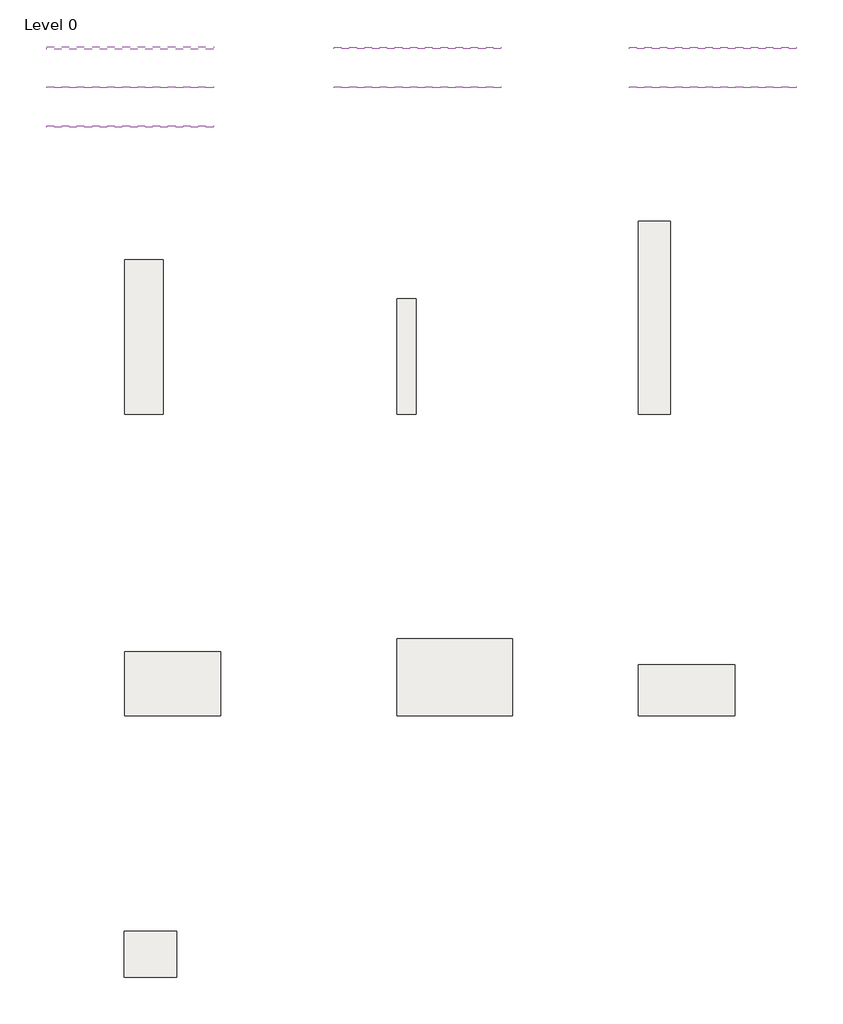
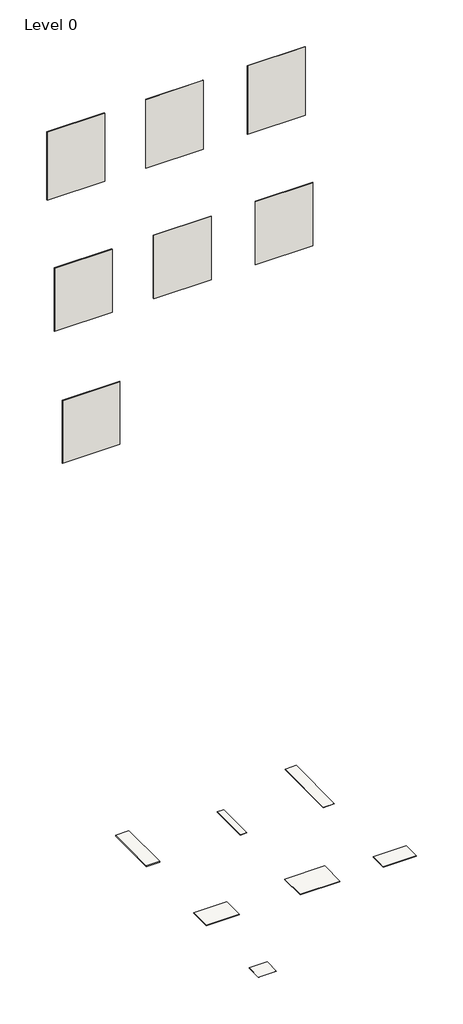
# One storey: 7 slabs, 7 walls.
"""IFC4 building model written with IfcOpenShell, lengths in millimetres."""

import ifcopenshell
import ifcopenshell.guid

model = None  # the IFC model being written
_history = None  # IfcOwnerHistory: only IFC2X3 demands one
_inside = {}  # id of a spatial element -> (the spatial element, [elements in it])
_under = {}  # id of a project, library or spatial element -> (it, [spatial elements below it])
_declared = {}  # id of a project -> (the project, [libraries it declares])
_typed = {}  # id of a type object -> (the type object, [elements of that type])
_made_of = {}  # id of a material, layer set ... -> (it, [elements and type objects made of it])


def new_model(schema):
    """Start an empty IFC model of exactly this schema.

    Asked for "IFC4X3", IfcOpenShell would pick the latest addendum, in which some entities
    have other attributes; the version numbers below select the first issue.
    IFC2X3 requires an IfcOwnerHistory on every rooted entity: one is made here for all.
    """
    global model, _history
    if schema == "IFC4X3":
        model = ifcopenshell.file(schema_version=(4, 3, 0, 0))
    else:
        model = ifcopenshell.file(schema=schema)
    _inside.clear()
    _under.clear()
    _declared.clear()
    _typed.clear()
    _made_of.clear()
    _history = None
    if model.schema == "IFC2X3":
        org = make("IfcOrganization", Name="unknown")
        user = make(
            "IfcPersonAndOrganization",
            ThePerson=make("IfcPerson", FamilyName="unknown"),
            TheOrganization=org,
        )
        app = make(
            "IfcApplication",
            ApplicationDeveloper=org,
            Version="unknown",
            ApplicationFullName="unknown",
            ApplicationIdentifier="unknown",
        )
        _history = make(
            "IfcOwnerHistory",
            OwningUser=user,
            OwningApplication=app,
            ChangeAction="ADDED",
            CreationDate=0,
        )
    return model


def make(cls, **values):
    """One entity of the class cls with the attributes given. An attribute that is None is left unset."""
    return model.create_entity(
        cls, **{name: value for name, value in values.items() if value is not None}
    )


def rooted(cls, **values):
    """An entity with a GlobalId (a new one), such as an element, a storey or a relation."""
    return make(cls, GlobalId=ifcopenshell.guid.new(), OwnerHistory=_history, **values)


def si_unit(unit_type, name, prefix=None):
    """IfcSIUnit, for example si_unit("LENGTHUNIT", "METRE", prefix="MILLI")."""
    return make("IfcSIUnit", UnitType=unit_type, Prefix=prefix, Name=name)


def assignment(units):
    """IfcUnitAssignment: the units of a project."""
    return None if units is None else make("IfcUnitAssignment", Units=units)


def point(xyz):
    """IfcCartesianPoint."""
    return None if xyz is None else make("IfcCartesianPoint", Coordinates=xyz)


def direction(xyz):
    """IfcDirection."""
    return None if xyz is None else make("IfcDirection", DirectionRatios=xyz)


def frame(location, z_axis=None, x_axis=None):
    """IfcAxis2Placement3D, a coordinate frame: its origin and axes. An axis left out is left unset."""
    return make(
        "IfcAxis2Placement3D",
        Location=point(location),
        Axis=direction(z_axis),
        RefDirection=direction(x_axis),
    )


def origin():
    """The frame at (0, 0, 0) with its axes left unset."""
    return frame((0.0, 0.0, 0.0))


def place(relative_to, where):
    """IfcLocalPlacement: puts the frame where relative to a parent placement (None: the world)."""
    return make(
        "IfcLocalPlacement", PlacementRelTo=relative_to, RelativePlacement=where
    )


def context(
    kind, dimensions, precision=None, world=None, true_north=None, identifier=None
):
    """IfcGeometricRepresentationContext, for example the 3D "Model" context."""
    return make(
        "IfcGeometricRepresentationContext",
        ContextIdentifier=identifier,
        ContextType=kind,
        CoordinateSpaceDimension=dimensions,
        Precision=precision,
        WorldCoordinateSystem=world,
        TrueNorth=true_north,
    )


def project(units=None, contexts=None):
    """IfcProject with its units and contexts."""
    return rooted(
        "IfcProject",
        Name="project",
        RepresentationContexts=contexts,
        UnitsInContext=assignment(units),
    )


def spatial(cls, under=None, at=None, **own):
    """A site, building, storey or space (cls), placed at a placement, below another one or the project."""
    s = rooted(cls, ObjectPlacement=at, **own)
    if under is not None:
        _under.setdefault(under.id(), (under, []))[1].append(s)
    return s


def polyline(points):
    """IfcPolyline through the points."""
    return make("IfcPolyline", Points=[point(p) for p in points])


def outline(outer, holes=None, kind="AREA"):
    """IfcArbitraryClosedProfileDef: a profile drawn as a closed curve; with holes, ...WithVoids."""
    if holes is None:
        return make("IfcArbitraryClosedProfileDef", ProfileType=kind, OuterCurve=outer)
    return make(
        "IfcArbitraryProfileDefWithVoids",
        ProfileType=kind,
        OuterCurve=outer,
        InnerCurves=holes,
    )


def extrude(swept, where, along, depth):
    """IfcExtrudedAreaSolid: the profile swept, set in the frame where, extruded along a direction by depth."""
    return make(
        "IfcExtrudedAreaSolid",
        SweptArea=swept,
        Position=where,
        ExtrudedDirection=direction(along),
        Depth=depth,
    )


def shape(context_of_items, identifier, shape_type, items):
    """IfcShapeRepresentation: the items that make up one representation, for example the "Body"."""
    return make(
        "IfcShapeRepresentation",
        ContextOfItems=context_of_items,
        RepresentationIdentifier=identifier,
        RepresentationType=shape_type,
        Items=items,
    )


def made_of(thing, what):
    """Note that an element or type object is made of a material, layer set ...; save() writes the relation."""
    if what is not None:
        _made_of.setdefault(what.id(), (what, []))[1].append(thing)
    return thing


def element(
    cls,
    number,
    at=None,
    inside=None,
    cuts=None,
    type_object=None,
    material=None,
    context=None,
    identifier="Body",
    shape_type=None,
    held_by="IfcProductDefinitionShape",
    body=None,
    shapes=None,
    **own,
):
    """One element of the class cls, such as IfcWall. Its Tag is "e" and its number.

    at: its placement. inside: the storey or other place that contains it. cuts: it is an
    opening in that element (IfcRelVoidsElement). A single representation is given by context,
    identifier, shape_type and body (its items); several are given by shapes. held_by: the class
    of the entity that holds the representations. save() writes the other relations.
    """
    e = rooted(cls, Tag="e%d" % number, ObjectPlacement=at, **own)
    if body is not None:
        shapes = [shape(context, identifier, shape_type, body)]
    if shapes is not None:
        e.Representation = make(held_by, Representations=shapes)
    if inside is not None:
        _inside.setdefault(inside.id(), (inside, []))[1].append(e)
    if cuts is not None:
        rooted(
            "IfcRelVoidsElement", RelatingBuildingElement=cuts, RelatedOpeningElement=e
        )
    if type_object is not None:
        _typed.setdefault(type_object.id(), (type_object, []))[1].append(e)
    return made_of(e, material)


def aggregate(whole, parts):
    """IfcRelAggregates: a whole, such as a stair, and the parts it consists of."""
    return rooted("IfcRelAggregates", RelatingObject=whole, RelatedObjects=parts)


def save(model, path):
    """Write the relations noted so far, then the file.

    IfcRelAggregates (storeys below a building ...), IfcRelContainedInSpatialStructure (elements
    in a storey), IfcRelDefinesByType, IfcRelAssociatesMaterial and IfcRelDeclares: one each for
    every whole, place, type object, material and project.
    """
    for whole, parts in _under.values():
        aggregate(whole, parts)
    for where, things in _inside.values():
        rooted(
            "IfcRelContainedInSpatialStructure",
            RelatedElements=things,
            RelatingStructure=where,
        )
    for kind, things in _typed.values():
        rooted("IfcRelDefinesByType", RelatedObjects=things, RelatingType=kind)
    for what, things in _made_of.values():
        rooted("IfcRelAssociatesMaterial", RelatedObjects=things, RelatingMaterial=what)
    for by, libraries in _declared.values():
        rooted("IfcRelDeclares", RelatingContext=by, RelatedDefinitions=libraries)
    model.write(path)


model = new_model("IFC4")

# Units and contexts
model_context = context("Model", 3, world=origin())
ifc_project = project(units=[si_unit("LENGTHUNIT", "METRE", prefix="MILLI")], contexts=[model_context])

# Site, building, storey
site = spatial("IfcSite", under=ifc_project)
building = spatial("IfcBuilding", under=site)
storey = spatial("IfcBuildingStorey", under=building, Name="Level 0", Elevation=0.0)

# Slabs
placement = place(None, origin())
element("IfcSlab", 1, ObjectType="Floor_Tiles_Refin-Cortina-Tobacco-25x150 OF84", at=placement, inside=storey, context=model_context, shape_type="SweptSolid", body=[
    extrude(outline(polyline([(10777.1861419, 6789.4623743), (10777.1861419, 5289.4623743), (10527.1861419, 5289.4623743), (10527.1861419, 6789.4623743), (10777.1861419, 6789.4623743)])), frame((0.0, 0.0, -10.0), z_axis=(0.0, 0.0, 1.0), x_axis=(1.0, 0.0, 0.0)), (0.0, 0.0, 1.0), 10.0),
])
element("IfcSlab", 2, ObjectType="Floor_Tiles_Refin-Cortina-Tobacco-30x120 OI97", at=placement, inside=storey, context=model_context, shape_type="SweptSolid", body=[
    extrude(outline(polyline([(6824.3752062, 6489.4623743), (6824.3752062, 5289.4623743), (6524.3752062, 5289.4623743), (6524.3752062, 6489.4623743), (6824.3752062, 6489.4623743)])), frame((0.0, 0.0, -21.0), z_axis=(0.0, 0.0, 1.0), x_axis=(1.0, 0.0, 0.0)), (0.0, 0.0, 1.0), 21.0),
])
element("IfcSlab", 3, ObjectType="Floor_Tiles_Refin-Cortina-Tobacco-Esagono-25x21.6 OG76", at=placement, inside=storey, context=model_context, shape_type="SweptSolid", body=[
    extrude(outline(polyline([(11277.1861419, 3339.4623743), (11277.1861419, 2939.4623743), (10527.1861419, 2939.4623743), (10527.1861419, 3339.4623743), (11277.1861419, 3339.4623743)])), frame((0.0, 0.0, -10.0), z_axis=(0.0, 0.0, 1.0), x_axis=(1.0, 0.0, 0.0)), (0.0, 0.0, 1.0), 10.0),
])
element("IfcSlab", 4, ObjectType="Floor_Tiles_Refin-Cortina-Tobacco-Chalet-12.5x75 OG83", at=placement, inside=storey, context=model_context, shape_type="SweptSolid", body=[
    extrude(outline(polyline([(7274.3752062, 3439.4623743), (7274.3752062, 2939.4623743), (6524.3752062, 2939.4623743), (6524.3752062, 3439.4623743), (7274.3752062, 3439.4623743)])), frame((0.0, 0.0, -10.0), z_axis=(0.0, 0.0, 1.0), x_axis=(1.0, 0.0, 0.0)), (0.0, 0.0, 1.0), 10.0),
])
element("IfcSlab", 5, ObjectType="Floor_Tiles_Refin-Cortina-Tobacco-Herringbone-36.2x41.2 OG44", at=placement, inside=storey, context=model_context, shape_type="SweptSolid", body=[
    extrude(outline(polyline([(6932.6009331, 1263.4367235), (6932.6009331, 903.4367235), (6522.6009331, 903.4367235), (6522.6009331, 1263.4367235), (6932.6009331, 1263.4367235)])), frame((0.0, 0.0, -10.0), z_axis=(0.0, 0.0, 1.0), x_axis=(1.0, 0.0, 0.0)), (0.0, 0.0, 1.0), 10.0),
])
element("IfcSlab", 6, ObjectType="Floor_Tiles_Refin-Cortina-Tobacco-15x90 OI75", at=placement, inside=storey, context=model_context, shape_type="SweptSolid", body=[
    extrude(outline(polyline([(8797.3924055, 6188.4192064), (8797.3924055, 5288.4192064), (8647.3924055, 5288.4192064), (8647.3924055, 6188.4192064), (8797.3924055, 6188.4192064)])), frame((0.0, 0.0, -10.0), z_axis=(0.0, 0.0, 1.0), x_axis=(1.0, 0.0, 0.0)), (0.0, 0.0, 1.0), 10.0),
])
element("IfcSlab", 7, ObjectType="Floor_Tiles_Refin-Cortina-Tobacco-Chalet-15x90 OG87", at=placement, inside=storey, context=model_context, shape_type="SweptSolid", body=[
    extrude(outline(polyline([(9547.3924055, 3539.4623743), (9547.3924055, 2939.4623743), (8647.3924055, 2939.4623743), (8647.3924055, 3539.4623743), (9547.3924055, 3539.4623743)])), frame((0.0, 0.0, -10.0), z_axis=(0.0, 0.0, 1.0), x_axis=(1.0, 0.0, 0.0)), (0.0, 0.0, 1.0), 10.0),
])

# Walls
element("IfcWall", 8, ObjectType="Wall_Tiles_Refin-Cortina-Tobacco-15x90 OI75", at=placement, inside=storey, context=model_context, shape_type="SweptSolid", body=[
    extrude(outline(polyline([(9457.3752062, 8132.3838631), (8157.3752062, 8132.3838631), (8157.3752062, 8142.3838631), (9457.3752062, 8142.3838631), (9457.3752062, 8132.3838631)])), frame((0.0, 0.0, 14387.6770443), z_axis=(0.0, 0.0, 1.0), x_axis=(1.0, 0.0, 0.0)), (0.0, 0.0, 1.0), 1641.7417352),
])
element("IfcWall", 9, ObjectType="Wall_Tiles_Refin-Cortina-Tobacco-25x150 OF84", at=placement, inside=storey, context=model_context, shape_type="SweptSolid", body=[
    extrude(outline(polyline([(11757.3752062, 8132.3838631), (10457.3752062, 8132.3838631), (10457.3752062, 8142.3838631), (11757.3752062, 8142.3838631), (11757.3752062, 8132.3838631)])), frame((0.0, 0.0, 14387.6770443), z_axis=(0.0, 0.0, 1.0), x_axis=(1.0, 0.0, 0.0)), (0.0, 0.0, 1.0), 1641.7417352),
])
element("IfcWall", 10, ObjectType="Wall_Tiles_Refin-Cortina-Tobacco-30x120 OI97", at=placement, inside=storey, context=model_context, shape_type="SweptSolid", body=[
    extrude(outline(polyline([(7217.3752062, 8126.8838631), (5917.3752062, 8126.8838631), (5917.3752062, 8147.8838631), (7217.3752062, 8147.8838631), (7217.3752062, 8126.8838631)])), frame((0.0, 0.0, 14403.7267346), z_axis=(0.0, 0.0, 1.0), x_axis=(1.0, 0.0, 0.0)), (0.0, 0.0, 1.0), 1625.692045),
])
element("IfcWall", 11, ObjectType="Wall_Tiles_Refin-Cortina-Tobacco-Chalet-12.5x75 OG83", at=placement, inside=storey, context=model_context, shape_type="SweptSolid", body=[
    extrude(outline(polyline([(7217.3752062, 7827.3838631), (5917.3752062, 7827.3838631), (5917.3752062, 7837.3838631), (7217.3752062, 7837.3838631), (7217.3752062, 7827.3838631)])), frame((0.0, 0.0, 11452.5436262), z_axis=(0.0, 0.0, 1.0), x_axis=(1.0, 0.0, 0.0)), (0.0, 0.0, 1.0), 1513.1985566),
])
element("IfcWall", 12, ObjectType="Wall_Tiles_Refin-Cortina-Tobacco-Chalet-15x90 OG87", at=placement, inside=storey, context=model_context, shape_type="SweptSolid", body=[
    extrude(outline(polyline([(9457.3752062, 7827.3838631), (8157.3752062, 7827.3838631), (8157.3752062, 7837.3838631), (9457.3752062, 7837.3838631), (9457.3752062, 7827.3838631)])), frame((0.0, 0.0, 11452.5436262), z_axis=(0.0, 0.0, 1.0), x_axis=(1.0, 0.0, 0.0)), (0.0, 0.0, 1.0), 1513.1985566),
])
element("IfcWall", 13, ObjectType="Wall_Tiles_Refin-Cortina-Tobacco-Esagono-25x21.6 OG76", at=placement, inside=storey, context=model_context, shape_type="SweptSolid", body=[
    extrude(outline(polyline([(11757.3752062, 7827.3838631), (10457.3752062, 7827.3838631), (10457.3752062, 7837.3838631), (11757.3752062, 7837.3838631), (11757.3752062, 7827.3838631)])), frame((0.0, 0.0, 11452.5436262), z_axis=(0.0, 0.0, 1.0), x_axis=(1.0, 0.0, 0.0)), (0.0, 0.0, 1.0), 1513.1985566),
])
element("IfcWall", 14, ObjectType="Wall_Tiles_Refin-Cortina-Tobacco-Herringbone-36.2x41.2 OG44", at=placement, inside=storey, context=model_context, shape_type="SweptSolid", body=[
    extrude(outline(polyline([(7217.3752062, 7522.3838631), (5917.3752062, 7522.3838631), (5917.3752062, 7532.3838631), (7217.3752062, 7532.3838631), (7217.3752062, 7522.3838631)])), frame((0.0, 0.0, 8479.1027214), z_axis=(0.0, 0.0, 1.0), x_axis=(1.0, 0.0, 0.0)), (0.0, 0.0, 1.0), 1502.5740159),
])

save(model, "model.ifc")
